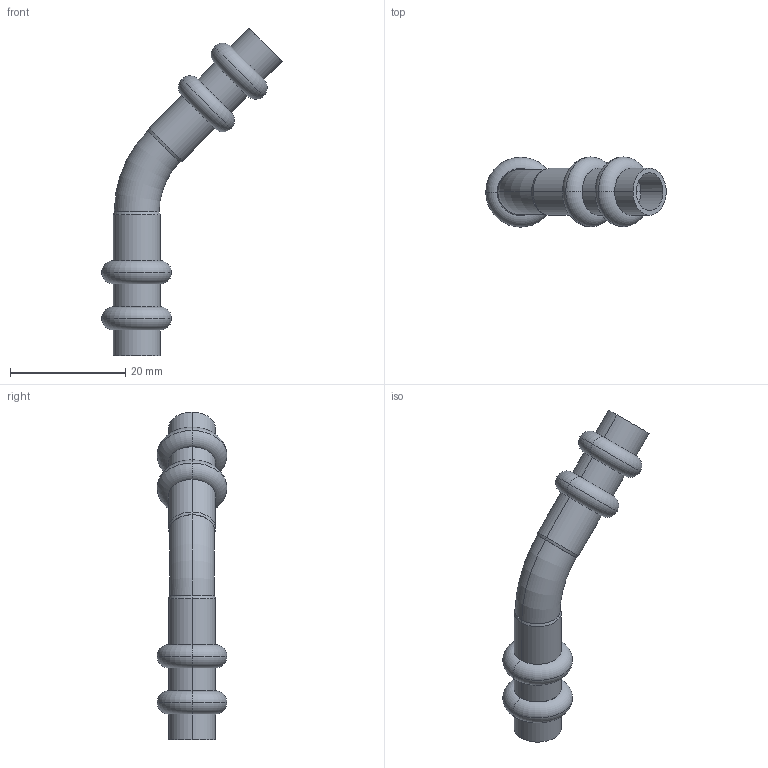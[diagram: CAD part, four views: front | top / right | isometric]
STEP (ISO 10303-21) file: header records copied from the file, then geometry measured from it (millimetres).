
FILE_DESCRIPTION(('starvars output'),'1');
FILE_NAME('cv20240422105045000011495.stp','10:50:46 2024/04/22',('Thomas Industrial Network Germany GmbH'),(' '),'Spatial InterOp 3D',' ',' ');
FILE_SCHEMA(('AUTOMOTIVE_DESIGN { 1 0 10303 214 3 1 1 }'));
Length unit declared in the file: millimetre
Products named in the file (1): 1
Bounding box: 31.28 x 12.1 x 56.85 mm (x, y, z)
Volume: 1719.8 mm3; surface area: 3522.3 mm2
Topology: 1 solids, 1 shells, 74 faces, 148 edges, 92 vertices
Faces by surface type: torus 28, cylinder 20, plane 18, cone 8
Entity records: 2844 total; most frequent: CARTESIAN_POINT 579, DIRECTION 410, ORIENTED_EDGE 296, AXIS2_PLACEMENT_3D 191, EDGE_CURVE 148, CIRCLE 116, EDGE_LOOP 92, VERTEX_POINT 92
